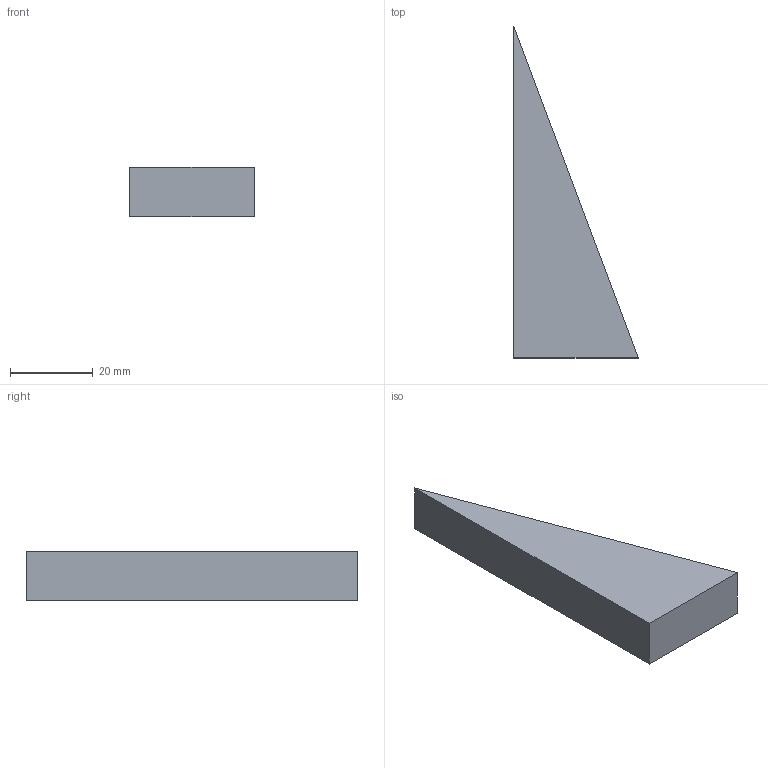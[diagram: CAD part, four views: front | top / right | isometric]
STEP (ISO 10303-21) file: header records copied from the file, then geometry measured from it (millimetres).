
FILE_DESCRIPTION(('Open CASCADE Model'),'2;1');
FILE_NAME('Open CASCADE Shape Model','2026-10-15T15:10:04',('Author'),( 'Open CASCADE'),'Open CASCADE STEP processor 8.0','Open CASCADE 8.0' ,'Unknown');
FILE_SCHEMA(('AUTOMOTIVE_DESIGN { 1 0 10303 214 1 1 1 1 }'));
Length unit declared in the file: millimetre
Products named in the file (1): U05_CARTELA_30x80x12_P05 78
Bounding box: 30 x 80 x 12 mm (x, y, z)
Volume: 14400 mm3; surface area: 4745.3 mm2
Topology: 1 solids, 1 shells, 5 faces, 9 edges, 6 vertices
Faces by surface type: plane 5
Entity records: 250 total; most frequent: CARTESIAN_POINT 39, DIRECTION 39, LINE 27, VECTOR 27, ORIENTED_EDGE 18, PCURVE 18, DEFINITIONAL_REPRESENTATION 18, EDGE_CURVE 9
